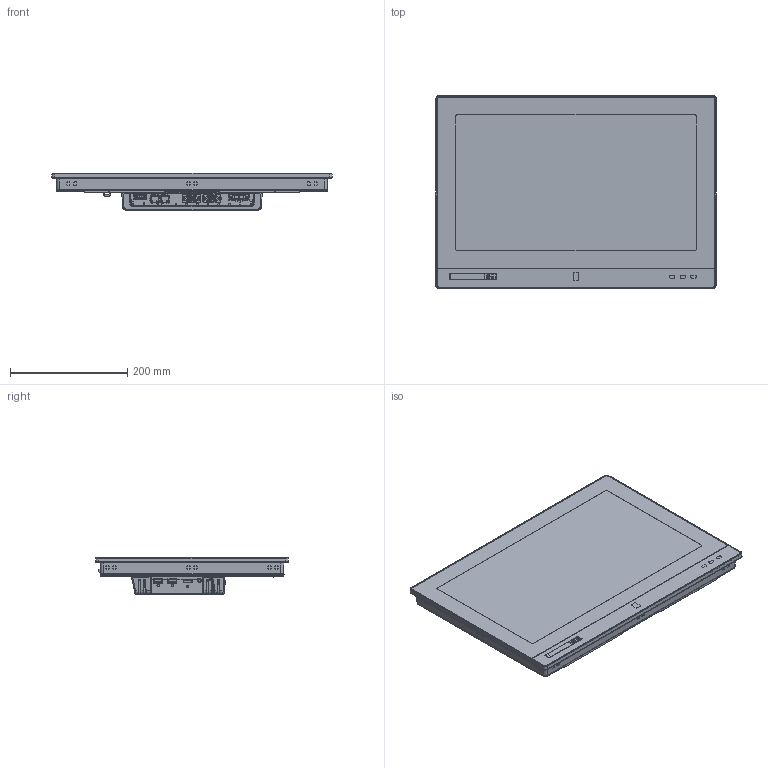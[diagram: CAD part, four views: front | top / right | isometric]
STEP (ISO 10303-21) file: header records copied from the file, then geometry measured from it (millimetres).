
FILE_DESCRIPTION((''),'2;1');
FILE_NAME('PRT0004','2024-07-26T14:28:38',('BCKIM'),(''),'CREO PARAMETRIC BY PTC INC, 2022414','CREO PARAMETRIC BY PTC INC, 2022414','');
FILE_SCHEMA(('CONFIG_CONTROL_DESIGN'));
Products named in the file (1): PRT0004
Bounding box: 477.4 x 328.4 x 63.6 mm (x, y, z)
Volume: 5720845.8 mm3; surface area: 429267.9 mm2
Topology: 1 solids, 1 shells, 5927 faces, 16090 edges, 10173 vertices
Faces by surface type: plane 3236, cylinder 1649, bspline 759, torus 167, cone 105, sphere 11
Entity records: 229741 total; most frequent: CARTESIAN_POINT 88576, ORIENTED_EDGE 32172, DIRECTION 25141, EDGE_CURVE 16086, VECTOR 10259, LINE 10259, VERTEX_POINT 10173, AXIS2_PLACEMENT_3D 7441
